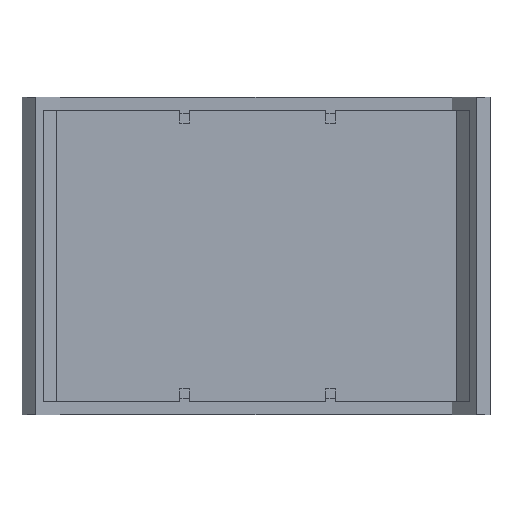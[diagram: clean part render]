
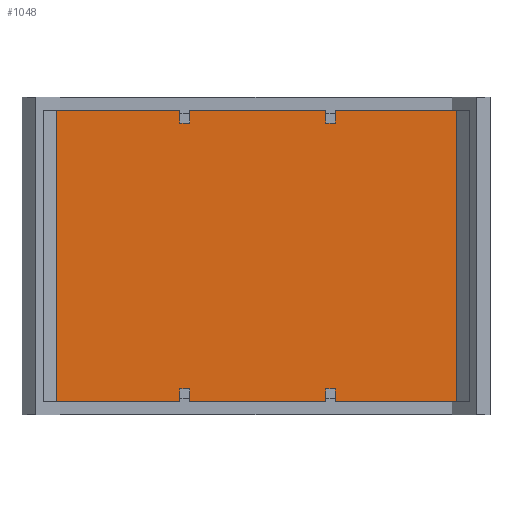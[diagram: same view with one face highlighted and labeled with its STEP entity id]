
A CAD part, front view. The second image highlights one B-rep face of the part: STEP entity #1048.
In plain terms, the highlighted planar face has unit normal (0, -1, 0).
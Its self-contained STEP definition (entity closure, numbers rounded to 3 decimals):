
#1 = LINE ( 'NONE', #471, #1323 ) ;
#21 = VECTOR ( 'NONE', #730, 1000. ) ;
#34 = ORIENTED_EDGE ( 'NONE', *, *, #988, .T. ) ;
#43 = CARTESIAN_POINT ( 'NONE',  ( -6.15, -8.256, 90. ) ) ;
#45 = DIRECTION ( 'NONE',  ( 0., 0., -1. ) ) ;
#46 = EDGE_CURVE ( 'NONE', #307, #791, #333, .T. ) ;
#52 = CARTESIAN_POINT ( 'NONE',  ( -9.15, -8.256, 4. ) ) ;
#71 = LINE ( 'NONE', #935, #777 ) ;
#84 = EDGE_CURVE ( 'NONE', #985, #755, #1190, .T. ) ;
#112 = CARTESIAN_POINT ( 'NONE',  ( -51.15, -8.256, 94. ) ) ;
#116 = VECTOR ( 'NONE', #586, 1000. ) ;
#118 = ORIENTED_EDGE ( 'NONE', *, *, #761, .T. ) ;
#129 = CARTESIAN_POINT ( 'NONE',  ( -51.15, -8.256, 4. ) ) ;
#130 = ORIENTED_EDGE ( 'NONE', *, *, #740, .F. ) ;
#133 = EDGE_CURVE ( 'NONE', #307, #1029, #1119, .T. ) ;
#135 = CARTESIAN_POINT ( 'NONE',  ( -9.15, -8.256, 8. ) ) ;
#140 = EDGE_CURVE ( 'NONE', #1128, #751, #1, .T. ) ;
#151 = CARTESIAN_POINT ( 'NONE',  ( 35.85, -8.256, 8. ) ) ;
#163 = CARTESIAN_POINT ( 'NONE',  ( 38.85, -8.256, 8. ) ) ;
#164 = CARTESIAN_POINT ( 'NONE',  ( 35.85, -8.256, 4. ) ) ;
#166 = LINE ( 'NONE', #1024, #246 ) ;
#167 = CARTESIAN_POINT ( 'NONE',  ( 76.35, -8.256, 4. ) ) ;
#173 = ORIENTED_EDGE ( 'NONE', *, *, #534, .T. ) ;
#175 = ORIENTED_EDGE ( 'NONE', *, *, #410, .F. ) ;
#201 = VECTOR ( 'NONE', #320, 1000. ) ;
#204 = VERTEX_POINT ( 'NONE', #167 ) ;
#205 = ORIENTED_EDGE ( 'NONE', *, *, #515, .F. ) ;
#206 = DIRECTION ( 'NONE',  ( -1., 0., 0. ) ) ;
#220 = ORIENTED_EDGE ( 'NONE', *, *, #46, .F. ) ;
#239 = EDGE_CURVE ( 'NONE', #791, #985, #1172, .T. ) ;
#243 = DIRECTION ( 'NONE',  ( -1., 0., 0. ) ) ;
#246 = VECTOR ( 'NONE', #682, 1000. ) ;
#255 = CARTESIAN_POINT ( 'NONE',  ( 76.35, -8.256, 94. ) ) ;
#265 = VERTEX_POINT ( 'NONE', #947 ) ;
#280 = PLANE ( 'NONE',  #613 ) ;
#282 = CARTESIAN_POINT ( 'NONE',  ( -9.15, -8.256, 8. ) ) ;
#283 = EDGE_CURVE ( 'NONE', #1044, #996, #573, .T. ) ;
#286 = LINE ( 'NONE', #874, #201 ) ;
#291 = EDGE_CURVE ( 'NONE', #866, #1043, #1109, .T. ) ;
#295 = ORIENTED_EDGE ( 'NONE', *, *, #84, .F. ) ;
#300 = CARTESIAN_POINT ( 'NONE',  ( 38.85, -8.256, 90. ) ) ;
#307 = VERTEX_POINT ( 'NONE', #695 ) ;
#315 = VECTOR ( 'NONE', #610, 1000. ) ;
#320 = DIRECTION ( 'NONE',  ( 0., 0., 1. ) ) ;
#322 = LINE ( 'NONE', #300, #351 ) ;
#333 = LINE ( 'NONE', #895, #1001 ) ;
#351 = VECTOR ( 'NONE', #854, 1000. ) ;
#384 = LINE ( 'NONE', #1279, #315 ) ;
#386 = CARTESIAN_POINT ( 'NONE',  ( -9.15, -8.256, 8. ) ) ;
#396 = CARTESIAN_POINT ( 'NONE',  ( 0., -8.256, 0. ) ) ;
#410 = EDGE_CURVE ( 'NONE', #1075, #1128, #286, .T. ) ;
#420 = EDGE_CURVE ( 'NONE', #704, #265, #322, .T. ) ;
#430 = LINE ( 'NONE', #1016, #726 ) ;
#449 = DIRECTION ( 'NONE',  ( 0., 0., 1. ) ) ;
#453 = ORIENTED_EDGE ( 'NONE', *, *, #966, .T. ) ;
#454 = EDGE_CURVE ( 'NONE', #1073, #265, #166, .T. ) ;
#459 = VERTEX_POINT ( 'NONE', #1332 ) ;
#471 = CARTESIAN_POINT ( 'NONE',  ( 35.85, -8.256, 8. ) ) ;
#473 = EDGE_LOOP ( 'NONE', ( #1101, #1248, #1017, #175, #453, #1420, #516, #1229, #1373, #130, #34, #1002, #205, #688, #173, #118, #1416, #295, #581, #220 ) ) ;
#480 = VERTEX_POINT ( 'NONE', #691 ) ;
#502 = DIRECTION ( 'NONE',  ( 1., 0., 0. ) ) ;
#504 = LINE ( 'NONE', #129, #571 ) ;
#515 = EDGE_CURVE ( 'NONE', #996, #866, #1356, .T. ) ;
#516 = ORIENTED_EDGE ( 'NONE', *, *, #454, .T. ) ;
#526 = CARTESIAN_POINT ( 'NONE',  ( -6.15, -8.256, 90. ) ) ;
#534 = EDGE_CURVE ( 'NONE', #1044, #459, #1400, .T. ) ;
#542 = VERTEX_POINT ( 'NONE', #1207 ) ;
#545 = CARTESIAN_POINT ( 'NONE',  ( -9.15, -8.256, 90. ) ) ;
#571 = VECTOR ( 'NONE', #1134, 1000. ) ;
#573 = LINE ( 'NONE', #1147, #1138 ) ;
#576 = CARTESIAN_POINT ( 'NONE',  ( -9.15, -8.256, 90. ) ) ;
#578 = VECTOR ( 'NONE', #671, 1000. ) ;
#580 = EDGE_CURVE ( 'NONE', #542, #704, #633, .T. ) ;
#581 = ORIENTED_EDGE ( 'NONE', *, *, #239, .F. ) ;
#586 = DIRECTION ( 'NONE',  ( 1., 0., 0. ) ) ;
#594 = CARTESIAN_POINT ( 'NONE',  ( 35.85, -8.256, 8. ) ) ;
#610 = DIRECTION ( 'NONE',  ( 1., 0., 0. ) ) ;
#613 = AXIS2_PLACEMENT_3D ( 'NONE', #396, #1173, #502 ) ;
#633 = LINE ( 'NONE', #1327, #578 ) ;
#642 = VECTOR ( 'NONE', #243, 1000. ) ;
#660 = DIRECTION ( 'NONE',  ( 0., 0., 1. ) ) ;
#671 = DIRECTION ( 'NONE',  ( 1., 0., 0. ) ) ;
#682 = DIRECTION ( 'NONE',  ( -1., 0., 0. ) ) ;
#688 = ORIENTED_EDGE ( 'NONE', *, *, #283, .F. ) ;
#691 = CARTESIAN_POINT ( 'NONE',  ( 35.85, -8.256, 94. ) ) ;
#695 = CARTESIAN_POINT ( 'NONE',  ( -6.15, -8.256, 4. ) ) ;
#698 = CARTESIAN_POINT ( 'NONE',  ( -51.15, -8.256, 4. ) ) ;
#704 = VERTEX_POINT ( 'NONE', #889 ) ;
#726 = VECTOR ( 'NONE', #449, 1000. ) ;
#730 = DIRECTION ( 'NONE',  ( -1., 0., 0. ) ) ;
#740 = EDGE_CURVE ( 'NONE', #480, #542, #71, .T. ) ;
#746 = DIRECTION ( 'NONE',  ( -1., 0., 0. ) ) ;
#751 = VERTEX_POINT ( 'NONE', #594 ) ;
#755 = VERTEX_POINT ( 'NONE', #52 ) ;
#761 = EDGE_CURVE ( 'NONE', #459, #1127, #808, .T. ) ;
#765 = LINE ( 'NONE', #801, #642 ) ;
#773 = DIRECTION ( 'NONE',  ( 1., 0., 0. ) ) ;
#777 = VECTOR ( 'NONE', #929, 1000. ) ;
#791 = VERTEX_POINT ( 'NONE', #822 ) ;
#801 = CARTESIAN_POINT ( 'NONE',  ( -51.15, -8.256, 94. ) ) ;
#808 = LINE ( 'NONE', #1148, #1126 ) ;
#822 = CARTESIAN_POINT ( 'NONE',  ( -6.15, -8.256, 8. ) ) ;
#827 = CARTESIAN_POINT ( 'NONE',  ( -47.15, -8.256, 4. ) ) ;
#854 = DIRECTION ( 'NONE',  ( 0., 0., 1. ) ) ;
#864 = VECTOR ( 'NONE', #773, 1000. ) ;
#866 = VERTEX_POINT ( 'NONE', #526 ) ;
#874 = CARTESIAN_POINT ( 'NONE',  ( 38.85, -8.256, 8. ) ) ;
#889 = CARTESIAN_POINT ( 'NONE',  ( 38.85, -8.256, 90. ) ) ;
#895 = CARTESIAN_POINT ( 'NONE',  ( -6.15, -8.256, 8. ) ) ;
#911 = VECTOR ( 'NONE', #206, 1000. ) ;
#929 = DIRECTION ( 'NONE',  ( 0., 0., -1. ) ) ;
#933 = DIRECTION ( 'NONE',  ( 0., 0., -1. ) ) ;
#935 = CARTESIAN_POINT ( 'NONE',  ( 35.85, -8.256, 90. ) ) ;
#947 = CARTESIAN_POINT ( 'NONE',  ( 38.85, -8.256, 94. ) ) ;
#955 = CARTESIAN_POINT ( 'NONE',  ( -9.15, -8.256, 94. ) ) ;
#966 = EDGE_CURVE ( 'NONE', #1075, #204, #504, .T. ) ;
#985 = VERTEX_POINT ( 'NONE', #135 ) ;
#988 = EDGE_CURVE ( 'NONE', #480, #1043, #765, .T. ) ;
#996 = VERTEX_POINT ( 'NONE', #576 ) ;
#1000 = VECTOR ( 'NONE', #933, 1000. ) ;
#1001 = VECTOR ( 'NONE', #1131, 1000. ) ;
#1002 = ORIENTED_EDGE ( 'NONE', *, *, #291, .F. ) ;
#1016 = CARTESIAN_POINT ( 'NONE',  ( 76.35, -8.256, 94. ) ) ;
#1017 = ORIENTED_EDGE ( 'NONE', *, *, #140, .F. ) ;
#1024 = CARTESIAN_POINT ( 'NONE',  ( -51.15, -8.256, 94. ) ) ;
#1029 = VERTEX_POINT ( 'NONE', #164 ) ;
#1040 = DIRECTION ( 'NONE',  ( 0., 0., -1. ) ) ;
#1043 = VERTEX_POINT ( 'NONE', #1376 ) ;
#1044 = VERTEX_POINT ( 'NONE', #955 ) ;
#1046 = CARTESIAN_POINT ( 'NONE',  ( 38.85, -8.256, 4. ) ) ;
#1048 = ADVANCED_FACE ( 'NONE', ( #1408 ), #280, .T. ) ;
#1050 = VECTOR ( 'NONE', #1099, 1000. ) ;
#1060 = VECTOR ( 'NONE', #660, 1000. ) ;
#1065 = EDGE_CURVE ( 'NONE', #751, #1029, #1296, .T. ) ;
#1073 = VERTEX_POINT ( 'NONE', #255 ) ;
#1075 = VERTEX_POINT ( 'NONE', #1046 ) ;
#1099 = DIRECTION ( 'NONE',  ( 0., 0., -1. ) ) ;
#1101 = ORIENTED_EDGE ( 'NONE', *, *, #133, .T. ) ;
#1109 = LINE ( 'NONE', #43, #1060 ) ;
#1119 = LINE ( 'NONE', #698, #116 ) ;
#1126 = VECTOR ( 'NONE', #45, 1000. ) ;
#1127 = VERTEX_POINT ( 'NONE', #827 ) ;
#1128 = VERTEX_POINT ( 'NONE', #163 ) ;
#1131 = DIRECTION ( 'NONE',  ( 0., 0., 1. ) ) ;
#1134 = DIRECTION ( 'NONE',  ( 1., 0., 0. ) ) ;
#1138 = VECTOR ( 'NONE', #1040, 1000. ) ;
#1147 = CARTESIAN_POINT ( 'NONE',  ( -9.15, -8.256, 90. ) ) ;
#1148 = CARTESIAN_POINT ( 'NONE',  ( -47.15, -8.256, 4. ) ) ;
#1153 = EDGE_CURVE ( 'NONE', #1127, #755, #384, .T. ) ;
#1172 = LINE ( 'NONE', #386, #21 ) ;
#1173 = DIRECTION ( 'NONE',  ( 0., -1., 0. ) ) ;
#1190 = LINE ( 'NONE', #282, #1050 ) ;
#1207 = CARTESIAN_POINT ( 'NONE',  ( 35.85, -8.256, 90. ) ) ;
#1229 = ORIENTED_EDGE ( 'NONE', *, *, #420, .F. ) ;
#1248 = ORIENTED_EDGE ( 'NONE', *, *, #1065, .F. ) ;
#1279 = CARTESIAN_POINT ( 'NONE',  ( -51.15, -8.256, 4. ) ) ;
#1296 = LINE ( 'NONE', #151, #1000 ) ;
#1323 = VECTOR ( 'NONE', #746, 1000. ) ;
#1327 = CARTESIAN_POINT ( 'NONE',  ( 35.85, -8.256, 90. ) ) ;
#1332 = CARTESIAN_POINT ( 'NONE',  ( -47.15, -8.256, 94. ) ) ;
#1356 = LINE ( 'NONE', #545, #864 ) ;
#1373 = ORIENTED_EDGE ( 'NONE', *, *, #580, .F. ) ;
#1376 = CARTESIAN_POINT ( 'NONE',  ( -6.15, -8.256, 94. ) ) ;
#1386 = EDGE_CURVE ( 'NONE', #204, #1073, #430, .T. ) ;
#1400 = LINE ( 'NONE', #112, #911 ) ;
#1408 = FACE_OUTER_BOUND ( 'NONE', #473, .T. ) ;
#1416 = ORIENTED_EDGE ( 'NONE', *, *, #1153, .T. ) ;
#1420 = ORIENTED_EDGE ( 'NONE', *, *, #1386, .T. ) ;
